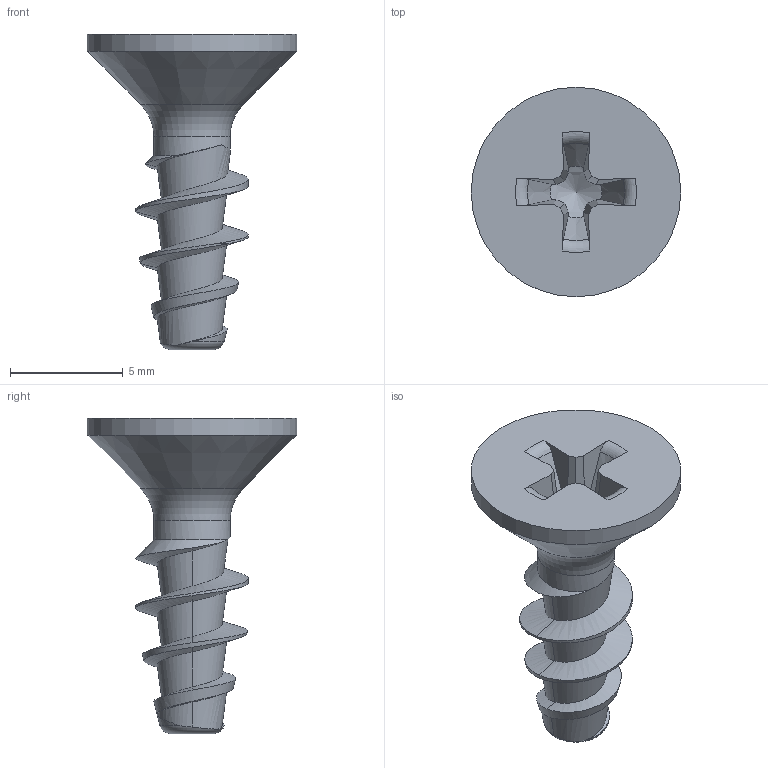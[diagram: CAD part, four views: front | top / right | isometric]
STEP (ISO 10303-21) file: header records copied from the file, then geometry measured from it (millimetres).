
FILE_DESCRIPTION(/* description */ (''),/* implementation_level */ '2;1');
FILE_NAME(/* name */ 'KN1033-STS-Neu-50x14-H2.step',/* time_stamp */ '2019-01-09T15:49:34+01:00',/* author */ (''),/* organization */ (''),/* preprocessor_version */ 'ST-DEVELOPER v16',/* originating_system */ 'SIEMENS PLM Software NX 10.0',/* authorisation */ '');
FILE_SCHEMA (('AUTOMOTIVE_DESIGN { 1 0 10303 214 3 1 1 1 }'));
Length unit declared in the file: millimetre
Products named in the file (1): KN1033-STS-Neu-50x14-H2
Bounding box: 9.3 x 9.3 x 14 mm (x, y, z)
Volume: 223.8 mm3; surface area: 357 mm2
Topology: 1 solids, 1 shells, 49 faces, 132 edges, 85 vertices
Faces by surface type: plane 18, bspline 14, cone 8, torus 6, cylinder 3
Full cylindrical faces by diameter (mm): 3.39 x1, 9.3 x1
Entity records: 2350 total; most frequent: CARTESIAN_POINT 1298, ORIENTED_EDGE 242, DIRECTION 153, EDGE_CURVE 121, VERTEX_POINT 81, B_SPLINE_CURVE_WITH_KNOTS 61, AXIS2_PLACEMENT_3D 57, EDGE_LOOP 55
